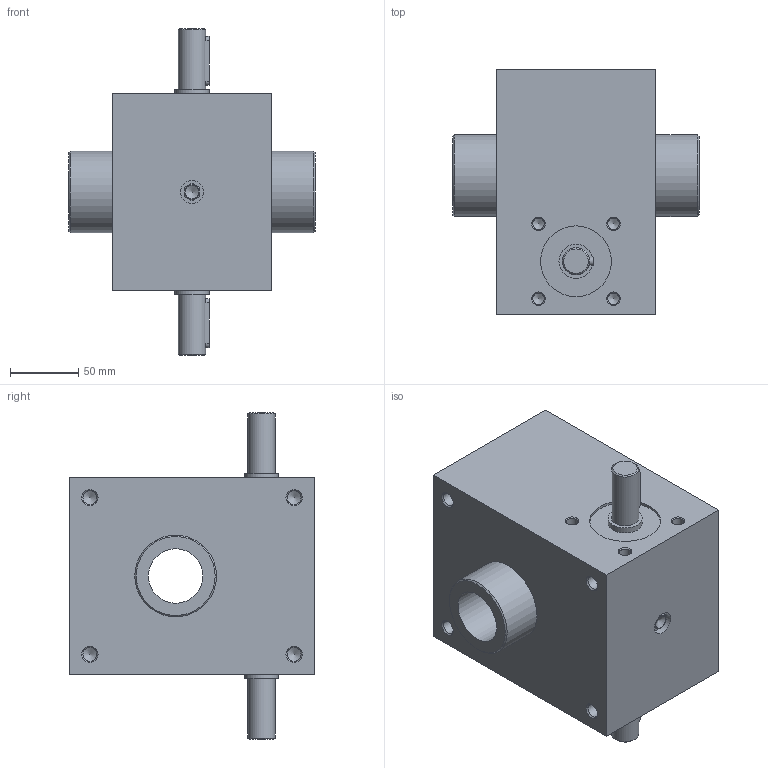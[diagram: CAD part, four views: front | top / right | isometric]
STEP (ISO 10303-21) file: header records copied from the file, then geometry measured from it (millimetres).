
FILE_DESCRIPTION(/* description */ (''),/* implementation_level */ '2;1');
FILE_NAME(/* name */ 'D:\FOLDER Tomasz Michałek\pliki z pulpitu\Katalogi przekładni\Podnośniki śrubowe\Pivexin Technology\Podnosniki - potrzebne\Modele podnosnikow\N\SG50\M4-N-281\SG50-N-L.stp',/* time_stamp */ '2016-05-17T22:28:04+02:00',/* author */ ('Tomasz'),/* organization */ (''),/* preprocessor_version */ 'ST-DEVELOPER v16.1',/* originating_system */ 'Autodesk Inventor 2016',/* authorisation */ '');
FILE_SCHEMA (('AUTOMOTIVE_DESIGN { 1 0 10303 214 3 1 1 }'));
Length unit declared in the file: millimetre
Products named in the file (3): SG50-N-H-obudowa; SG50_slimak; SG50-N-H
Assembly tree (2 placements, depth 2):
  SG50-N-H
    SG50-N-H-obudowa
    SG50_slimak
Bounding box: 181 x 180 x 240 mm (x, y, z)
Volume: 3011035.4 mm3; surface area: 198288.3 mm2
Topology: 2 solids, 2 shells, 101 faces, 229 edges, 140 vertices
Faces by surface type: cone 43, cylinder 30, plane 28
Full cylindrical faces by diameter (mm): 8.376 x8, 10.106 x8, 17 x1, 20 x2, 25 x2, 40 x1, 52 x2, 60 x2
Entity records: 2380 total; most frequent: CARTESIAN_POINT 452, DIRECTION 418, ORIENTED_EDGE 278, AXIS2_PLACEMENT_3D 189, EDGE_LOOP 178, EDGE_CURVE 139, VERTEX_POINT 115, FACE_OUTER_BOUND 101
